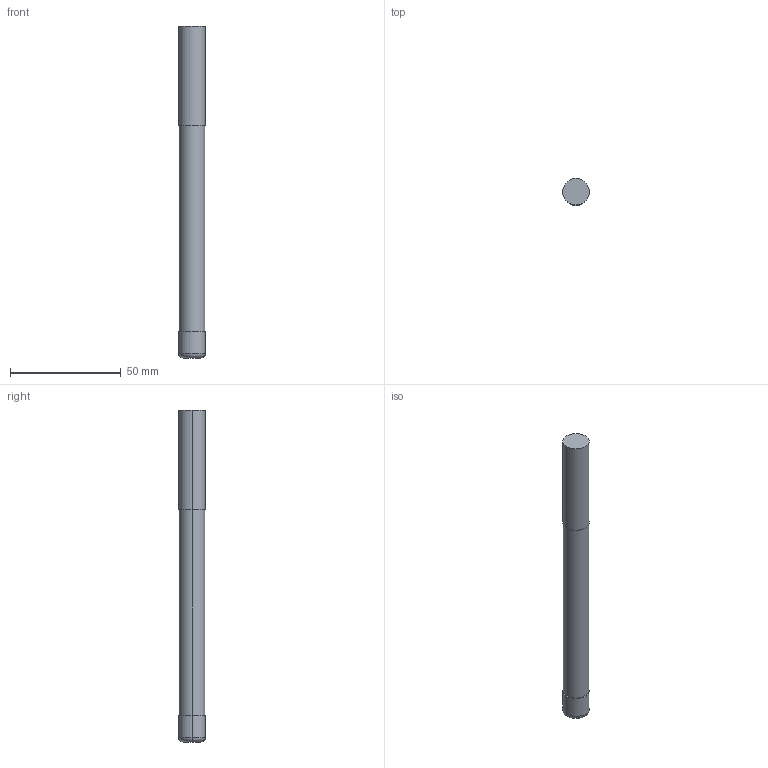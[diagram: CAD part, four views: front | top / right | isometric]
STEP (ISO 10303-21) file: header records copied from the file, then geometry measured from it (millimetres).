
FILE_DESCRIPTION(('STEP AP214'),'1');
FILE_NAME('cctmp_C8D95566-B69C-480D-9789-697BDEA8A107_2020_10_01_07_15_39_0846..stp','2020-10-01T05:15:39',('Meusburger Georg GmbH & Co KG'),('CADClick - www.CADClick.com'),'Spatial InterOp 3D',' ','unknown authorization');
FILE_SCHEMA(('AUTOMOTIVE_DESIGN { 1 0 10303 214 1 1 1 1 }'));
Length unit declared in the file: millimetre
Products named in the file (1): WZF17426_12_2
Bounding box: 12 x 12 x 150 mm (x, y, z)
Volume: 16076.4 mm3; surface area: 5719.3 mm2
Topology: 1 solids, 1 shells, 12 faces, 22 edges, 14 vertices
Faces by surface type: cylinder 6, plane 4, torus 2
Entity records: 426 total; most frequent: DIRECTION 64, CARTESIAN_POINT 49, ORIENTED_EDGE 44, AXIS2_PLACEMENT_3D 29, EDGE_CURVE 22, CIRCLE 16, EDGE_LOOP 14, VERTEX_POINT 14
